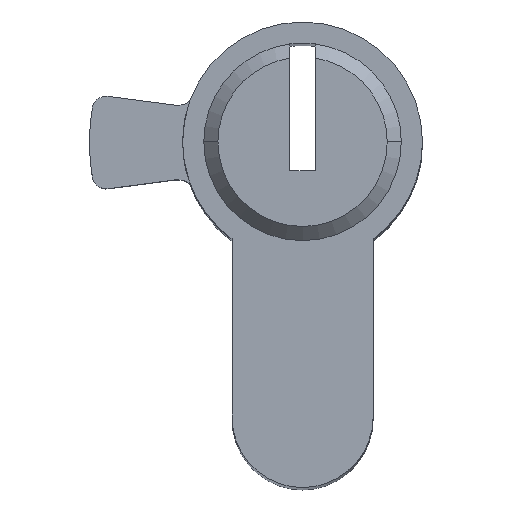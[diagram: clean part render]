
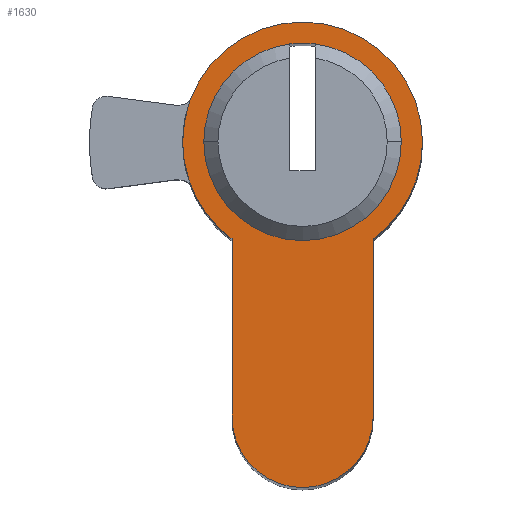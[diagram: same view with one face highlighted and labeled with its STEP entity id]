
A CAD part, top view. The second image highlights one B-rep face of the part: STEP entity #1630.
In plain terms, the highlighted planar face has unit normal (0, 0, 1).
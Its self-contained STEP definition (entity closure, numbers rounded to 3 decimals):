
#7 = VERTEX_POINT ( 'NONE', #1491 ) ;
#81 = CARTESIAN_POINT ( 'NONE',  ( 0., 0., 30. ) ) ;
#93 = CARTESIAN_POINT ( 'NONE',  ( 0., 0., 30. ) ) ;
#99 = VECTOR ( 'NONE', #1768, 1000. ) ;
#126 = EDGE_CURVE ( 'NONE', #1467, #1535, #585, .T. ) ;
#165 = VERTEX_POINT ( 'NONE', #1119 ) ;
#173 = DIRECTION ( 'NONE',  ( 0., 0., 1. ) ) ;
#180 = AXIS2_PLACEMENT_3D ( 'NONE', #1027, #1611, #501 ) ;
#197 = DIRECTION ( 'NONE',  ( 0., 0., 1. ) ) ;
#204 = VERTEX_POINT ( 'NONE', #1110 ) ;
#222 = DIRECTION ( 'NONE',  ( 1., 0., 0. ) ) ;
#249 = EDGE_CURVE ( 'NONE', #1495, #271, #1255, .T. ) ;
#271 = VERTEX_POINT ( 'NONE', #1430 ) ;
#294 = AXIS2_PLACEMENT_3D ( 'NONE', #1303, #602, #1157 ) ;
#300 = CARTESIAN_POINT ( 'NONE',  ( -5., -6.874, 30. ) ) ;
#306 = AXIS2_PLACEMENT_3D ( 'NONE', #562, #173, #822 ) ;
#322 = ORIENTED_EDGE ( 'NONE', *, *, #941, .T. ) ;
#323 = EDGE_CURVE ( 'NONE', #1771, #1467, #333, .T. ) ;
#333 = CIRCLE ( 'NONE', #1596, 7. ) ;
#339 = AXIS2_PLACEMENT_3D ( 'NONE', #81, #630, #1024 ) ;
#362 = ORIENTED_EDGE ( 'NONE', *, *, #249, .T. ) ;
#433 = CIRCLE ( 'NONE', #635, 7. ) ;
#447 = ORIENTED_EDGE ( 'NONE', *, *, #126, .F. ) ;
#501 = DIRECTION ( 'NONE',  ( 1., 0., 0. ) ) ;
#512 = ORIENTED_EDGE ( 'NONE', *, *, #709, .F. ) ;
#562 = CARTESIAN_POINT ( 'NONE',  ( 0., 0., 30. ) ) ;
#585 = CIRCLE ( 'NONE', #306, 7. ) ;
#586 = CARTESIAN_POINT ( 'NONE',  ( 0., 0., 30. ) ) ;
#602 = DIRECTION ( 'NONE',  ( 0., 0., 1. ) ) ;
#630 = DIRECTION ( 'NONE',  ( 0., 0., 1. ) ) ;
#635 = AXIS2_PLACEMENT_3D ( 'NONE', #1428, #1555, #1010 ) ;
#709 = EDGE_CURVE ( 'NONE', #1535, #165, #1433, .T. ) ;
#720 = DIRECTION ( 'NONE',  ( 1., 0., 0. ) ) ;
#730 = ORIENTED_EDGE ( 'NONE', *, *, #1323, .F. ) ;
#750 = CARTESIAN_POINT ( 'NONE',  ( -8.5, 0., 30. ) ) ;
#822 = DIRECTION ( 'NONE',  ( 1., 0., 0. ) ) ;
#827 = CIRCLE ( 'NONE', #294, 8.5 ) ;
#838 = PLANE ( 'NONE',  #954 ) ;
#910 = EDGE_CURVE ( 'NONE', #1372, #204, #1362, .T. ) ;
#941 = EDGE_CURVE ( 'NONE', #271, #1372, #827, .T. ) ;
#953 = ORIENTED_EDGE ( 'NONE', *, *, #1351, .T. ) ;
#954 = AXIS2_PLACEMENT_3D ( 'NONE', #1401, #1144, #720 ) ;
#1002 = DIRECTION ( 'NONE',  ( 0., 1., 0. ) ) ;
#1010 = DIRECTION ( 'NONE',  ( 1., 0., 0. ) ) ;
#1011 = CARTESIAN_POINT ( 'NONE',  ( 0., 0., 30. ) ) ;
#1024 = DIRECTION ( 'NONE',  ( 1., 0., 0. ) ) ;
#1027 = CARTESIAN_POINT ( 'NONE',  ( 0., -19.5, 30. ) ) ;
#1038 = CARTESIAN_POINT ( 'NONE',  ( 5., -6.874, 30. ) ) ;
#1110 = CARTESIAN_POINT ( 'NONE',  ( -5., -6.874, 30. ) ) ;
#1119 = CARTESIAN_POINT ( 'NONE',  ( -7., 0., 30. ) ) ;
#1144 = DIRECTION ( 'NONE',  ( 0., 0., 1. ) ) ;
#1157 = DIRECTION ( 'NONE',  ( 1., 0., 0. ) ) ;
#1190 = DIRECTION ( 'NONE',  ( 1., 0., 0. ) ) ;
#1217 = FACE_BOUND ( 'NONE', #1324, .T. ) ;
#1231 = ORIENTED_EDGE ( 'NONE', *, *, #323, .F. ) ;
#1255 = CIRCLE ( 'NONE', #1485, 8.5 ) ;
#1262 = DIRECTION ( 'NONE',  ( 1., 0., 0. ) ) ;
#1303 = CARTESIAN_POINT ( 'NONE',  ( 0., 0., 30. ) ) ;
#1314 = EDGE_LOOP ( 'NONE', ( #362, #322, #1671, #1715, #1602, #953 ) ) ;
#1323 = EDGE_CURVE ( 'NONE', #165, #1771, #433, .T. ) ;
#1324 = EDGE_LOOP ( 'NONE', ( #447, #1231, #730, #512 ) ) ;
#1333 = DIRECTION ( 'NONE',  ( 0., 0., 1. ) ) ;
#1351 = EDGE_CURVE ( 'NONE', #7, #1495, #1712, .T. ) ;
#1353 = CARTESIAN_POINT ( 'NONE',  ( 0.9, 6.942, 30. ) ) ;
#1362 = CIRCLE ( 'NONE', #1551, 8.5 ) ;
#1369 = CARTESIAN_POINT ( 'NONE',  ( -5., -19.5, 30. ) ) ;
#1372 = VERTEX_POINT ( 'NONE', #750 ) ;
#1387 = CARTESIAN_POINT ( 'NONE',  ( -0.9, 6.942, 30. ) ) ;
#1401 = CARTESIAN_POINT ( 'NONE',  ( 0., 0., 30. ) ) ;
#1417 = EDGE_CURVE ( 'NONE', #1558, #7, #1733, .T. ) ;
#1418 = CARTESIAN_POINT ( 'NONE',  ( 5., -19.5, 30. ) ) ;
#1428 = CARTESIAN_POINT ( 'NONE',  ( 0., 0., 30. ) ) ;
#1430 = CARTESIAN_POINT ( 'NONE',  ( 8.5, 0., 30. ) ) ;
#1433 = CIRCLE ( 'NONE', #339, 7. ) ;
#1467 = VERTEX_POINT ( 'NONE', #1353 ) ;
#1485 = AXIS2_PLACEMENT_3D ( 'NONE', #1011, #1575, #222 ) ;
#1491 = CARTESIAN_POINT ( 'NONE',  ( 5., -19.5, 30. ) ) ;
#1495 = VERTEX_POINT ( 'NONE', #1038 ) ;
#1496 = LINE ( 'NONE', #300, #99 ) ;
#1526 = FACE_OUTER_BOUND ( 'NONE', #1314, .T. ) ;
#1534 = CARTESIAN_POINT ( 'NONE',  ( 7., 0., 30. ) ) ;
#1535 = VERTEX_POINT ( 'NONE', #1387 ) ;
#1540 = EDGE_CURVE ( 'NONE', #204, #1558, #1496, .T. ) ;
#1551 = AXIS2_PLACEMENT_3D ( 'NONE', #586, #197, #1262 ) ;
#1555 = DIRECTION ( 'NONE',  ( 0., 0., 1. ) ) ;
#1558 = VERTEX_POINT ( 'NONE', #1369 ) ;
#1575 = DIRECTION ( 'NONE',  ( 0., 0., 1. ) ) ;
#1596 = AXIS2_PLACEMENT_3D ( 'NONE', #93, #1333, #1190 ) ;
#1602 = ORIENTED_EDGE ( 'NONE', *, *, #1417, .T. ) ;
#1611 = DIRECTION ( 'NONE',  ( 0., 0., 1. ) ) ;
#1619 = VECTOR ( 'NONE', #1002, 1000. ) ;
#1630 = ADVANCED_FACE ( 'NONE', ( #1217, #1526 ), #838, .T. ) ;
#1671 = ORIENTED_EDGE ( 'NONE', *, *, #910, .T. ) ;
#1712 = LINE ( 'NONE', #1418, #1619 ) ;
#1715 = ORIENTED_EDGE ( 'NONE', *, *, #1540, .T. ) ;
#1733 = CIRCLE ( 'NONE', #180, 5. ) ;
#1768 = DIRECTION ( 'NONE',  ( 0., -1., 0. ) ) ;
#1771 = VERTEX_POINT ( 'NONE', #1534 ) ;
